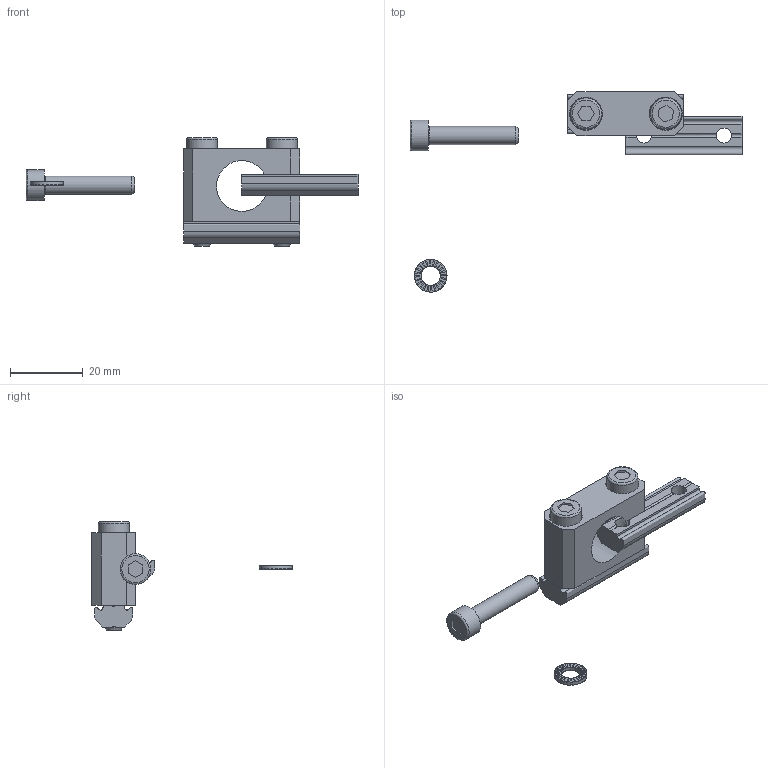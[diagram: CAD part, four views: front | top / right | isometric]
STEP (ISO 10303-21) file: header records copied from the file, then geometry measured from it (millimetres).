
FILE_DESCRIPTION( ( 'Unknown' ), '1' );
FILE_NAME( 'C:/Users/Fabrizio/Desktop/DISEGNI ACCESSORI FP SOLIDEDGE/CA.KVB.X14.stp', 'Unknown', ( 'Unknown' ), ( 'Unknown' ), 'PSStep 13.0', 'Unknown', ' ' );
FILE_SCHEMA( ( 'AUTOMOTIVE_DESIGN { 1 0 10303 214 1 1 1 1 }' ) );
Length unit declared in the file: millimetre
Products named in the file (5): Assem1; KVB.X14; R.5.SCH; CA.GWP.5.22; V-tcei M  5 x 25
Bounding box: 91.5 x 55.14 x 30 mm (x, y, z)
Volume: 13970.9 mm3; surface area: 11382.9 mm2
Topology: 7 solids, 10 shells, 727 faces, 2119 edges, 1405 vertices
Faces by surface type: plane 666, cylinder 52, torus 6, cone 3
Full cylindrical faces by diameter (mm): 4.134 x4, 5 x3, 5.2 x4, 5.3 x5, 8.5 x3, 9 x3, 9.15 x4
Entity records: 10509 total; most frequent: CARTESIAN_POINT 1567, DIRECTION 1493, ORIENTED_EDGE 1468, EDGE_CURVE 734, AXIS2_PLACEMENT_3D 501, VERTEX_POINT 495, LINE 491, VECTOR 491
